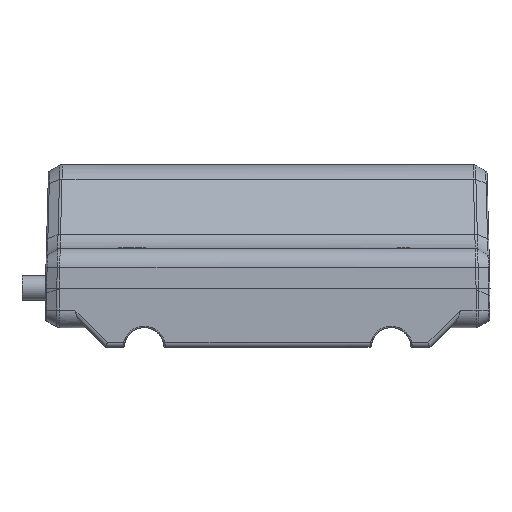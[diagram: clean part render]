
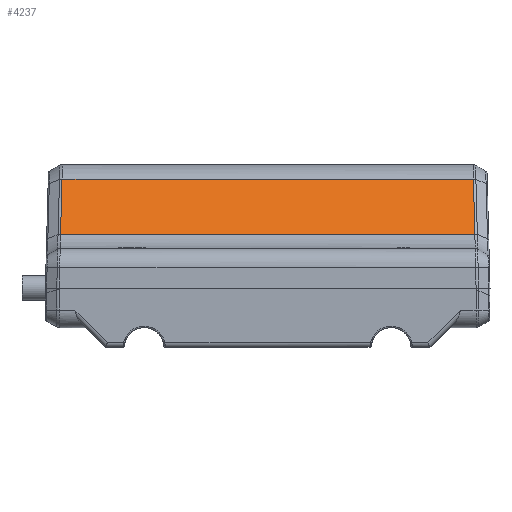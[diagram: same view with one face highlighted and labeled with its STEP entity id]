
A CAD part, front view. The second image highlights one B-rep face of the part: STEP entity #4237.
In plain terms, the highlighted planar face has unit normal (0, -0.707, 0.707).
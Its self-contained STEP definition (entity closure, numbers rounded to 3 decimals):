
#331 = CARTESIAN_POINT ( 'NONE',  ( -45., -12., 8. ) ) ;
#672 = CARTESIAN_POINT ( 'NONE',  ( -41.639, 2.071, 22.071 ) ) ;
#825 = EDGE_LOOP ( 'NONE', ( #26379, #1930, #14495, #23460 ) ) ;
#1930 = ORIENTED_EDGE ( 'NONE', *, *, #4615, .F. ) ;
#2761 = PLANE ( 'NONE',  #12284 ) ;
#4237 = ADVANCED_FACE ( 'NONE', ( #29847 ), #2761, .F. ) ;
#4587 = CARTESIAN_POINT ( 'NONE',  ( -41.931, -9.071, 10.929 ) ) ;
#4615 = EDGE_CURVE ( 'NONE', #29980, #21827, #31019, .T. ) ;
#5138 = DIRECTION ( 'NONE',  ( 0., 0.707, -0.707 ) ) ;
#7016 = DIRECTION ( 'NONE',  ( 1., 0., 0. ) ) ;
#8053 = EDGE_CURVE ( 'NONE', #29980, #26036, #14617, .T. ) ;
#8747 = CARTESIAN_POINT ( 'NONE',  ( 41.737, -1.643, 18.357 ) ) ;
#11123 = CARTESIAN_POINT ( 'NONE',  ( 41.834, -5.357, 14.643 ) ) ;
#11148 = VERTEX_POINT ( 'NONE', #30683 ) ;
#12284 = AXIS2_PLACEMENT_3D ( 'NONE', #331, #5138, #21876 ) ;
#13365 = CARTESIAN_POINT ( 'NONE',  ( 41.931, -9.071, 10.929 ) ) ;
#13657 = CARTESIAN_POINT ( 'NONE',  ( -45., 2.071, 22.071 ) ) ;
#13880 = EDGE_CURVE ( 'NONE', #11148, #26036, #24943, .T. ) ;
#14178 = CARTESIAN_POINT ( 'NONE',  ( -41.737, -1.643, 18.357 ) ) ;
#14495 = ORIENTED_EDGE ( 'NONE', *, *, #8053, .T. ) ;
#14617 = LINE ( 'NONE', #21341, #27382 ) ;
#15858 = VECTOR ( 'NONE', #16065, 1000. ) ;
#16065 = DIRECTION ( 'NONE',  ( 1., 0., 0. ) ) ;
#20576 = EDGE_CURVE ( 'NONE', #21827, #11148, #29345, .T. ) ;
#20672 = CARTESIAN_POINT ( 'NONE',  ( 41.639, 2.071, 22.071 ) ) ;
#21341 = CARTESIAN_POINT ( 'NONE',  ( -45., -9.071, 10.929 ) ) ;
#21827 = VERTEX_POINT ( 'NONE', #672 ) ;
#21876 = DIRECTION ( 'NONE',  ( 0., 0.707, 0.707 ) ) ;
#23460 = ORIENTED_EDGE ( 'NONE', *, *, #13880, .F. ) ;
#24943 = B_SPLINE_CURVE_WITH_KNOTS ( 'NONE', 3,
 ( #20672, #8747, #11123, #27912 ),
 .UNSPECIFIED., .F., .F.,
 ( 4, 4 ),
 ( 0., 1. ),
 .UNSPECIFIED. ) ;
#26036 = VERTEX_POINT ( 'NONE', #13365 ) ;
#26138 = CARTESIAN_POINT ( 'NONE',  ( -41.834, -5.357, 14.643 ) ) ;
#26379 = ORIENTED_EDGE ( 'NONE', *, *, #20576, .F. ) ;
#26428 = CARTESIAN_POINT ( 'NONE',  ( -41.931, -9.071, 10.929 ) ) ;
#27382 = VECTOR ( 'NONE', #7016, 1000. ) ;
#27912 = CARTESIAN_POINT ( 'NONE',  ( 41.931, -9.071, 10.929 ) ) ;
#29345 = LINE ( 'NONE', #13657, #15858 ) ;
#29847 = FACE_OUTER_BOUND ( 'NONE', #825, .T. ) ;
#29980 = VERTEX_POINT ( 'NONE', #26428 ) ;
#30683 = CARTESIAN_POINT ( 'NONE',  ( 41.639, 2.071, 22.071 ) ) ;
#30937 = CARTESIAN_POINT ( 'NONE',  ( -41.639, 2.071, 22.071 ) ) ;
#31019 = B_SPLINE_CURVE_WITH_KNOTS ( 'NONE', 3,
 ( #4587, #26138, #14178, #30937 ),
 .UNSPECIFIED., .F., .F.,
 ( 4, 4 ),
 ( 0., 1. ),
 .UNSPECIFIED. ) ;
